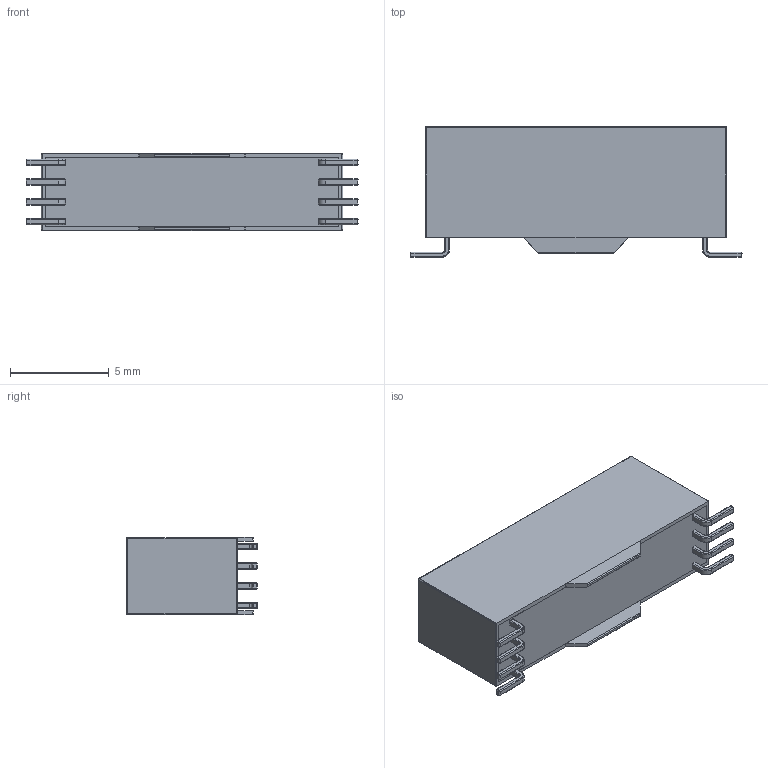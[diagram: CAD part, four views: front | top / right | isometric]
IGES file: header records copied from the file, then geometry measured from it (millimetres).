
Start section: SolidWorks IGES file using analytic representation for surfaces
Global section: file name: T:\Relays in Solidworks\Batch 1\200RF.IGS; native system: SolidWorks 2009; preprocessor: SolidWorks 2009; author: alex.leming; date: 100629.132520; units: inch
Bounding box: 16.8 x 6.6 x 3.9 mm (x, y, z)
Surface area: 870.7 mm2 (no closed solid volume)
Topology: 0 solids, 0 shells, 594 faces, 3956 edges, 3918 vertices
Faces by surface type: bspline 390, revolution 204
